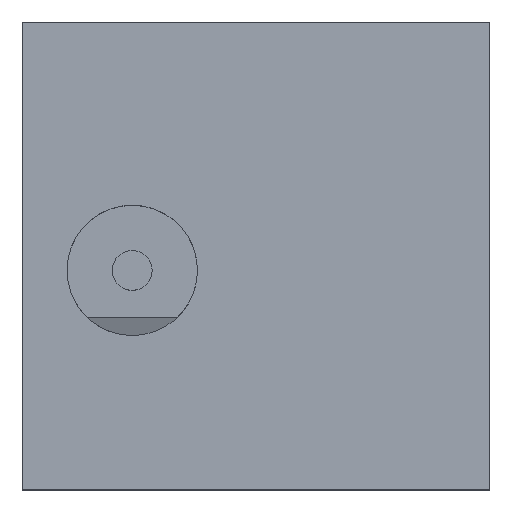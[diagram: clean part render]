
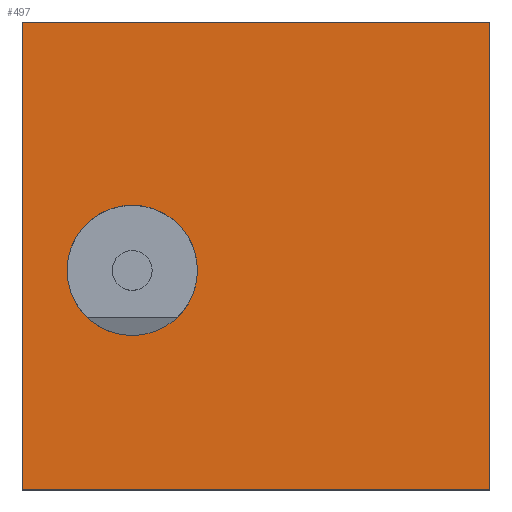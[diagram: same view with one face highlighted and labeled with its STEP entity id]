
A CAD part, top view. The second image highlights one B-rep face of the part: STEP entity #497.
In plain terms, the highlighted planar face has unit normal (0, 0, 1).
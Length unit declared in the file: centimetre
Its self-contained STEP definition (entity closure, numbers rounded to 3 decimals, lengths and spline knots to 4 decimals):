
#70 = CARTESIAN_POINT ( 'NONE',  ( 95.7268, 468.6257, 1000. ) ) ;
#99 = FACE_BOUND ( 'NONE', #1408, .T. ) ;
#105 = CARTESIAN_POINT ( 'NONE',  ( 0., 0., 1000. ) ) ;
#153 = LINE ( 'NONE', #1231, #1440 ) ;
#205 = AXIS2_PLACEMENT_3D ( 'NONE', #543, #1580, #1324 ) ;
#230 = VECTOR ( 'NONE', #714, 100. ) ;
#233 = DIRECTION ( 'NONE',  ( 1., 0., 0. ) ) ;
#259 = CARTESIAN_POINT ( 'NONE',  ( 0., 1000., 1000. ) ) ;
#311 = EDGE_CURVE ( 'NONE', #965, #1362, #153, .T. ) ;
#332 = ORIENTED_EDGE ( 'NONE', *, *, #763, .T. ) ;
#398 = EDGE_CURVE ( 'NONE', #859, #1260, #1125, .T. ) ;
#440 = LINE ( 'NONE', #1507, #230 ) ;
#478 = ORIENTED_EDGE ( 'NONE', *, *, #1133, .F. ) ;
#497 = ADVANCED_FACE ( 'NONE', ( #99, #753 ), #632, .T. ) ;
#543 = CARTESIAN_POINT ( 'NONE',  ( 235.2472, 468.6257, 1000. ) ) ;
#558 = EDGE_LOOP ( 'NONE', ( #1177, #920, #1503, #332 ) ) ;
#574 = DIRECTION ( 'NONE',  ( 0., 0., 1. ) ) ;
#632 = PLANE ( 'NONE',  #756 ) ;
#713 = VERTEX_POINT ( 'NONE', #949 ) ;
#714 = DIRECTION ( 'NONE',  ( -1., 0., 0. ) ) ;
#742 = EDGE_CURVE ( 'NONE', #1698, #713, #1446, .T. ) ;
#753 = FACE_OUTER_BOUND ( 'NONE', #558, .T. ) ;
#756 = AXIS2_PLACEMENT_3D ( 'NONE', #105, #1700, #233 ) ;
#763 = EDGE_CURVE ( 'NONE', #1362, #1698, #440, .T. ) ;
#789 = DIRECTION ( 'NONE',  ( 0., -1., 0. ) ) ;
#845 = CARTESIAN_POINT ( 'NONE',  ( 235.2472, 468.6257, 1000. ) ) ;
#847 = DIRECTION ( 'NONE',  ( 1., 0., 0. ) ) ;
#859 = VERTEX_POINT ( 'NONE', #70 ) ;
#914 = AXIS2_PLACEMENT_3D ( 'NONE', #845, #574, #1215 ) ;
#916 = CIRCLE ( 'NONE', #205, 139.5205 ) ;
#920 = ORIENTED_EDGE ( 'NONE', *, *, #1710, .T. ) ;
#949 = CARTESIAN_POINT ( 'NONE',  ( 0., 0., 1000. ) ) ;
#955 = ORIENTED_EDGE ( 'NONE', *, *, #398, .F. ) ;
#963 = DIRECTION ( 'NONE',  ( 0., 1., 0. ) ) ;
#965 = VERTEX_POINT ( 'NONE', #1413 ) ;
#1108 = CARTESIAN_POINT ( 'NONE',  ( 374.7677, 468.6257, 1000. ) ) ;
#1125 = CIRCLE ( 'NONE', #914, 139.5205 ) ;
#1133 = EDGE_CURVE ( 'NONE', #1260, #859, #916, .T. ) ;
#1177 = ORIENTED_EDGE ( 'NONE', *, *, #742, .T. ) ;
#1215 = DIRECTION ( 'NONE',  ( 1., 0., 0. ) ) ;
#1231 = CARTESIAN_POINT ( 'NONE',  ( 1000., 1000., 1000. ) ) ;
#1260 = VERTEX_POINT ( 'NONE', #1108 ) ;
#1266 = CARTESIAN_POINT ( 'NONE',  ( 0., 0., 1000. ) ) ;
#1324 = DIRECTION ( 'NONE',  ( 1., 0., 0. ) ) ;
#1362 = VERTEX_POINT ( 'NONE', #1402 ) ;
#1397 = LINE ( 'NONE', #1266, #1691 ) ;
#1402 = CARTESIAN_POINT ( 'NONE',  ( 1000., 1000., 1000. ) ) ;
#1408 = EDGE_LOOP ( 'NONE', ( #478, #955 ) ) ;
#1413 = CARTESIAN_POINT ( 'NONE',  ( 1000., 0., 1000. ) ) ;
#1440 = VECTOR ( 'NONE', #963, 100. ) ;
#1446 = LINE ( 'NONE', #259, #1463 ) ;
#1463 = VECTOR ( 'NONE', #789, 100. ) ;
#1503 = ORIENTED_EDGE ( 'NONE', *, *, #311, .T. ) ;
#1507 = CARTESIAN_POINT ( 'NONE',  ( 0., 1000., 1000. ) ) ;
#1580 = DIRECTION ( 'NONE',  ( 0., 0., 1. ) ) ;
#1649 = CARTESIAN_POINT ( 'NONE',  ( 0., 1000., 1000. ) ) ;
#1691 = VECTOR ( 'NONE', #847, 100. ) ;
#1698 = VERTEX_POINT ( 'NONE', #1649 ) ;
#1700 = DIRECTION ( 'NONE',  ( 0., 0., 1. ) ) ;
#1710 = EDGE_CURVE ( 'NONE', #713, #965, #1397, .T. ) ;
